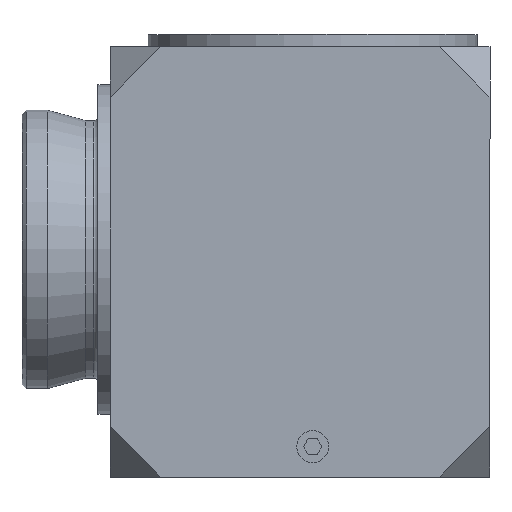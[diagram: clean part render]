
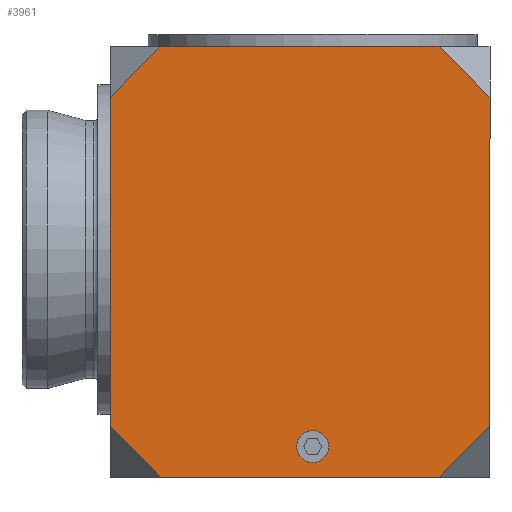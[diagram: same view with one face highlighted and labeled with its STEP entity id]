
A CAD part, top view. The second image highlights one B-rep face of the part: STEP entity #3961.
In plain terms, the highlighted planar face has unit normal (0, 0, 1).
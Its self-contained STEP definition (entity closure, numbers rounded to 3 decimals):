
#142 = DIRECTION ( 'NONE',  ( 1., 0., 0. ) ) ;
#144 = PLANE ( 'NONE',  #4337 ) ;
#146 = FACE_BOUND ( 'NONE', #2254, .T. ) ;
#147 = CARTESIAN_POINT ( 'NONE',  ( -25.4, 25.4, 20.637 ) ) ;
#150 = DIRECTION ( 'NONE',  ( 0., 0., 1. ) ) ;
#152 = FACE_OUTER_BOUND ( 'NONE', #2252, .T. ) ;
#324 = CARTESIAN_POINT ( 'NONE',  ( 15.875, -28.575, 20.637 ) ) ;
#325 = CARTESIAN_POINT ( 'NONE',  ( 22.225, -22.225, 20.637 ) ) ;
#334 = CARTESIAN_POINT ( 'NONE',  ( -2., -24.765, 20.637 ) ) ;
#490 = CARTESIAN_POINT ( 'NONE',  ( 2., -24.765, 20.637 ) ) ;
#886 = CARTESIAN_POINT ( 'NONE',  ( 15.875, 25.4, 20.637 ) ) ;
#900 = CARTESIAN_POINT ( 'NONE',  ( -25.4, 19.05, 20.637 ) ) ;
#901 = CARTESIAN_POINT ( 'NONE',  ( -19.05, -28.575, 20.637 ) ) ;
#903 = CARTESIAN_POINT ( 'NONE',  ( -19.05, 25.4, 20.637 ) ) ;
#906 = CARTESIAN_POINT ( 'NONE',  ( -25.4, -22.225, 20.637 ) ) ;
#910 = CARTESIAN_POINT ( 'NONE',  ( 22.225, 19.05, 20.637 ) ) ;
#1258 = CARTESIAN_POINT ( 'NONE',  ( 0., -24.765, 20.637 ) ) ;
#1259 = DIRECTION ( 'NONE',  ( 0., 0., 1. ) ) ;
#1260 = DIRECTION ( 'NONE',  ( 1., 0., 0. ) ) ;
#1465 = VERTEX_POINT ( 'NONE', #3456 ) ;
#1468 = VERTEX_POINT ( 'NONE', #3450 ) ;
#1488 = VERTEX_POINT ( 'NONE', #490 ) ;
#2252 = EDGE_LOOP ( 'NONE', ( #2419, #2420, #2421, #2422, #2423, #2424, #2425, #2426, #2427, #2428 ) ) ;
#2254 = EDGE_LOOP ( 'NONE', ( #2417, #2418 ) ) ;
#2417 = ORIENTED_EDGE ( 'NONE', *, *, #4128, .F. ) ;
#2418 = ORIENTED_EDGE ( 'NONE', *, *, #4285, .F. ) ;
#2419 = ORIENTED_EDGE ( 'NONE', *, *, #4129, .F. ) ;
#2420 = ORIENTED_EDGE ( 'NONE', *, *, #4126, .T. ) ;
#2421 = ORIENTED_EDGE ( 'NONE', *, *, #4130, .F. ) ;
#2422 = ORIENTED_EDGE ( 'NONE', *, *, #4111, .T. ) ;
#2423 = ORIENTED_EDGE ( 'NONE', *, *, #4095, .T. ) ;
#2424 = ORIENTED_EDGE ( 'NONE', *, *, #4131, .F. ) ;
#2425 = ORIENTED_EDGE ( 'NONE', *, *, #4100, .T. ) ;
#2426 = ORIENTED_EDGE ( 'NONE', *, *, #4109, .T. ) ;
#2427 = ORIENTED_EDGE ( 'NONE', *, *, #4132, .F. ) ;
#2428 = ORIENTED_EDGE ( 'NONE', *, *, #4120, .T. ) ;
#2846 = CARTESIAN_POINT ( 'NONE',  ( 22.225, 25.4, 20.637 ) ) ;
#2873 = LINE ( 'NONE', #2846, #3841 ) ;
#2891 = DIRECTION ( 'NONE',  ( -1., 0., 0. ) ) ;
#2902 = LINE ( 'NONE', #2903, #3848 ) ;
#2903 = CARTESIAN_POINT ( 'NONE',  ( -25.4, 25.4, 20.637 ) ) ;
#2904 = DIRECTION ( 'NONE',  ( 0., -1., 0. ) ) ;
#2919 = LINE ( 'NONE', #2920, #3862 ) ;
#2920 = CARTESIAN_POINT ( 'NONE',  ( 22.225, 25.4, 20.637 ) ) ;
#2931 = LINE ( 'NONE', #2932, #3860 ) ;
#2932 = CARTESIAN_POINT ( 'NONE',  ( -25.4, 25.4, 20.637 ) ) ;
#2933 = DIRECTION ( 'NONE',  ( 0., -1., 0. ) ) ;
#2939 = DIRECTION ( 'NONE',  ( -1., 0., 0. ) ) ;
#2964 = LINE ( 'NONE', #2965, #3873 ) ;
#2965 = CARTESIAN_POINT ( 'NONE',  ( -25.4, -28.575, 20.637 ) ) ;
#2966 = DIRECTION ( 'NONE',  ( 1., 0., 0. ) ) ;
#2970 = CARTESIAN_POINT ( 'NONE',  ( 22.225, -22.225, 20.637 ) ) ;
#2981 = LINE ( 'NONE', #2982, #3880 ) ;
#2982 = CARTESIAN_POINT ( 'NONE',  ( 22.225, -28.575, 20.637 ) ) ;
#2983 = DIRECTION ( 'NONE',  ( 0., 1., 0. ) ) ;
#2987 = LINE ( 'NONE', #2995, #3883 ) ;
#2988 = LINE ( 'NONE', #2997, #3885 ) ;
#2989 = LINE ( 'NONE', #2970, #3843 ) ;
#2990 = CARTESIAN_POINT ( 'NONE',  ( 0., -24.765, 20.637 ) ) ;
#2991 = DIRECTION ( 'NONE',  ( 0., 0., 1. ) ) ;
#2992 = DIRECTION ( 'NONE',  ( 1., 0., 0. ) ) ;
#2993 = LINE ( 'NONE', #2999, #3886 ) ;
#2994 = DIRECTION ( 'NONE',  ( -0.707, -0.707, 0. ) ) ;
#2995 = CARTESIAN_POINT ( 'NONE',  ( -4.762, 46.038, 20.637 ) ) ;
#2996 = DIRECTION ( 'NONE',  ( 0.707, -0.707, 0. ) ) ;
#2997 = CARTESIAN_POINT ( 'NONE',  ( -22.225, 22.225, 20.637 ) ) ;
#2998 = DIRECTION ( 'NONE',  ( 0.707, 0.707, 0. ) ) ;
#2999 = CARTESIAN_POINT ( 'NONE',  ( -49.212, 1.588, 20.637 ) ) ;
#3000 = DIRECTION ( 'NONE',  ( -0.707, 0.707, 0. ) ) ;
#3323 = CIRCLE ( 'NONE', #3325, 2. ) ;
#3325 = AXIS2_PLACEMENT_3D ( 'NONE', #1258, #1259, #1260 ) ;
#3450 = CARTESIAN_POINT ( 'NONE',  ( 0., 25.4, 20.637 ) ) ;
#3456 = CARTESIAN_POINT ( 'NONE',  ( -25.4, 0., 20.637 ) ) ;
#3841 = VECTOR ( 'NONE', #2891, 1000. ) ;
#3843 = VECTOR ( 'NONE', #2994, 1000. ) ;
#3848 = VECTOR ( 'NONE', #2904, 1000. ) ;
#3860 = VECTOR ( 'NONE', #2933, 1000. ) ;
#3862 = VECTOR ( 'NONE', #2939, 1000. ) ;
#3873 = VECTOR ( 'NONE', #2966, 1000. ) ;
#3880 = VECTOR ( 'NONE', #2983, 1000. ) ;
#3882 = CIRCLE ( 'NONE', #3884, 2. ) ;
#3883 = VECTOR ( 'NONE', #2996, 1000. ) ;
#3884 = AXIS2_PLACEMENT_3D ( 'NONE', #2990, #2991, #2992 ) ;
#3885 = VECTOR ( 'NONE', #2998, 1000. ) ;
#3886 = VECTOR ( 'NONE', #3000, 1000. ) ;
#3961 = ADVANCED_FACE ( 'NONE', ( #146, #152 ), #144, .T. ) ;
#4095 = EDGE_CURVE ( 'NONE', #1468, #4502, #2873, .T. ) ;
#4100 = EDGE_CURVE ( 'NONE', #4504, #1465, #2902, .T. ) ;
#4109 = EDGE_CURVE ( 'NONE', #1465, #4509, #2931, .T. ) ;
#4111 = EDGE_CURVE ( 'NONE', #4508, #1468, #2919, .T. ) ;
#4120 = EDGE_CURVE ( 'NONE', #4506, #4515, #2964, .T. ) ;
#4126 = EDGE_CURVE ( 'NONE', #4516, #4513, #2981, .T. ) ;
#4128 = EDGE_CURVE ( 'NONE', #1488, #4525, #3882, .T. ) ;
#4129 = EDGE_CURVE ( 'NONE', #4516, #4515, #2989, .T. ) ;
#4130 = EDGE_CURVE ( 'NONE', #4508, #4513, #2987, .T. ) ;
#4131 = EDGE_CURVE ( 'NONE', #4504, #4502, #2988, .T. ) ;
#4132 = EDGE_CURVE ( 'NONE', #4506, #4509, #2993, .T. ) ;
#4285 = EDGE_CURVE ( 'NONE', #4525, #1488, #3323, .T. ) ;
#4337 = AXIS2_PLACEMENT_3D ( 'NONE', #147, #150, #142 ) ;
#4502 = VERTEX_POINT ( 'NONE', #903 ) ;
#4504 = VERTEX_POINT ( 'NONE', #900 ) ;
#4506 = VERTEX_POINT ( 'NONE', #901 ) ;
#4508 = VERTEX_POINT ( 'NONE', #886 ) ;
#4509 = VERTEX_POINT ( 'NONE', #906 ) ;
#4513 = VERTEX_POINT ( 'NONE', #910 ) ;
#4515 = VERTEX_POINT ( 'NONE', #324 ) ;
#4516 = VERTEX_POINT ( 'NONE', #325 ) ;
#4525 = VERTEX_POINT ( 'NONE', #334 ) ;
